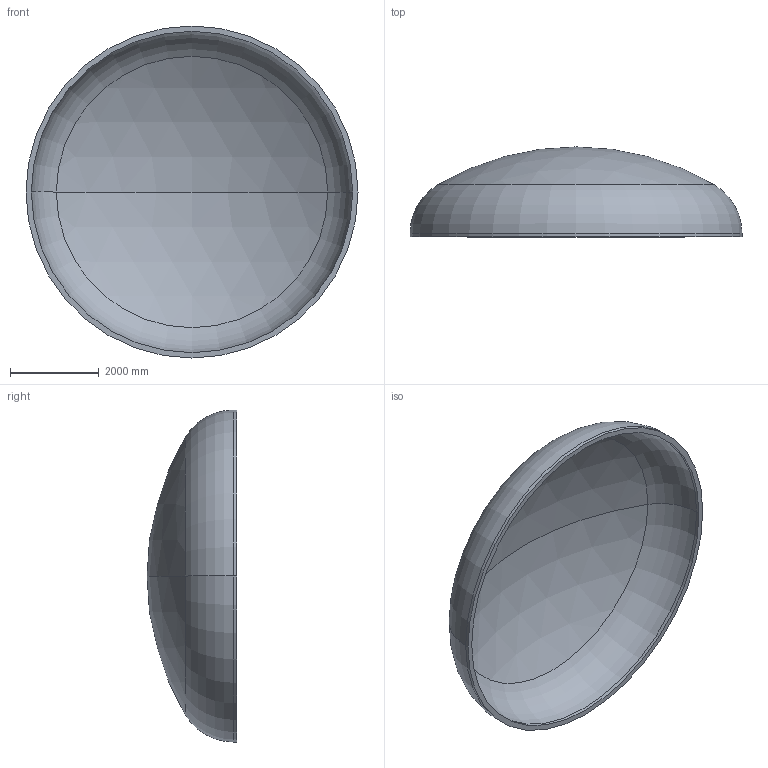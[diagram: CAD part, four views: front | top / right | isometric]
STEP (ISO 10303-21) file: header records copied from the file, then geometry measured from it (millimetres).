
FILE_DESCRIPTION (( 'STEP AP203' ), '1' );
FILE_NAME ('DIN 28013 Korbbogenform_-_Boden DIN 28013 - 7500 x 75 - I - s=120.step', '2016-07-04T10:57:57', ( '' ), ( '' ), 'SwSTEP 2.0', 'SolidWorks 2013', '' );
FILE_SCHEMA (( 'CONFIG_CONTROL_DESIGN' ));
Length unit declared in the file: millimetre
Products named in the file (1): DIN 28013 Korbbogenform_-_Boden DIN 28013 - 7500 x 75 - I - s=120
Bounding box: 7500 x 2029.86 x 7500 mm (x, y, z)
Volume: 7397647175.8 mm3; surface area: 126106426.3 mm2
Topology: 1 solids, 1 shells, 13 faces, 24 edges, 14 vertices
Faces by surface type: torus 4, cylinder 4, sphere 4, plane 1
Entity records: 407 total; most frequent: DIRECTION 72, CARTESIAN_POINT 52, ORIENTED_EDGE 48, AXIS2_PLACEMENT_3D 34, EDGE_CURVE 24, CIRCLE 20, EDGE_LOOP 14, VERTEX_POINT 14
